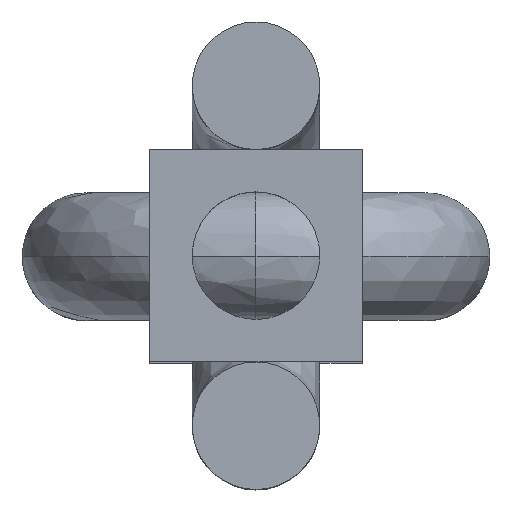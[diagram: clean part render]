
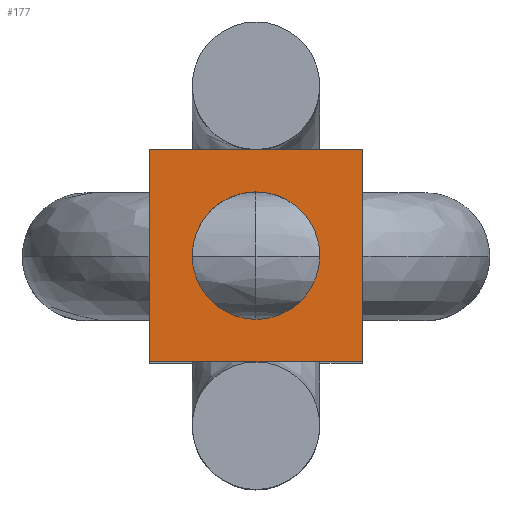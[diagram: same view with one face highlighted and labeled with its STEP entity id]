
A CAD part, top view. The second image highlights one B-rep face of the part: STEP entity #177.
In plain terms, the highlighted planar face has unit normal (0, 0, 1).
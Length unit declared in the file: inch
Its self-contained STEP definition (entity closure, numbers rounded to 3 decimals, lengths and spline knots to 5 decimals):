
#177=ADVANCED_FACE('',(#330,#331),#332,.F.);
#330=FACE_BOUND('',#1055,.T.);
#331=FACE_OUTER_BOUND('',#1056,.T.);
#332=PLANE('',#1057);
#1055=EDGE_LOOP('',(#1322,#1323,#1324,#1325));
#1056=EDGE_LOOP('',(#1326,#1327,#1328,#1329));
#1057=AXIS2_PLACEMENT_3D('',#1330,#1331,#1332);
#1322=ORIENTED_EDGE('',*,*,#1468,.T.);
#1323=ORIENTED_EDGE('',*,*,#1449,.T.);
#1324=ORIENTED_EDGE('',*,*,#1455,.T.);
#1325=ORIENTED_EDGE('',*,*,#1430,.T.);
#1326=ORIENTED_EDGE('',*,*,#1472,.F.);
#1327=ORIENTED_EDGE('',*,*,#1474,.F.);
#1328=ORIENTED_EDGE('',*,*,#1435,.F.);
#1329=ORIENTED_EDGE('',*,*,#1395,.F.);
#1330=CARTESIAN_POINT('',(0.31198,0.31198,2.55711));
#1331=DIRECTION('',(0.,0.,-1.0));
#1332=DIRECTION('',(1.0,0.0,0.));
#1395=EDGE_CURVE('',#1554,#1556,#1557,.T.);
#1430=EDGE_CURVE('',#1599,#1597,#1600,.T.);
#1435=EDGE_CURVE('',#1556,#1606,#1607,.T.);
#1449=EDGE_CURVE('',#1626,#1624,#1627,.T.);
#1455=EDGE_CURVE('',#1624,#1599,#1633,.T.);
#1468=EDGE_CURVE('',#1597,#1626,#1647,.T.);
#1472=EDGE_CURVE('',#1650,#1554,#1652,.T.);
#1474=EDGE_CURVE('',#1606,#1650,#1654,.T.);
#1554=VERTEX_POINT('',#1801);
#1556=VERTEX_POINT('',#1804);
#1557=LINE('',#1805,#1806);
#1597=VERTEX_POINT('',#1867);
#1599=VERTEX_POINT('',#1870);
#1600=B_SPLINE_CURVE_WITH_KNOTS('',3,(#1871,#1872,#1873,#1874),.UNSPECIFIED.,.F.,.F.,(4,4),(0.0,1.0),.UNSPECIFIED.);
#1606=VERTEX_POINT('',#1882);
#1607=LINE('',#1883,#1884);
#1624=VERTEX_POINT('',#1909);
#1626=VERTEX_POINT('',#1912);
#1627=B_SPLINE_CURVE_WITH_KNOTS('',3,(#1913,#1914,#1915,#1916),.UNSPECIFIED.,.F.,.F.,(4,4),(0.0,1.0),.UNSPECIFIED.);
#1633=B_SPLINE_CURVE_WITH_KNOTS('',3,(#1926,#1927,#1928,#1929),.UNSPECIFIED.,.F.,.F.,(4,4),(0.0,1.0),.UNSPECIFIED.);
#1647=B_SPLINE_CURVE_WITH_KNOTS('',3,(#1949,#1950,#1951,#1952),.UNSPECIFIED.,.F.,.F.,(4,4),(0.0,1.0),.UNSPECIFIED.);
#1650=VERTEX_POINT('',#1955);
#1652=LINE('',#1958,#1959);
#1654=LINE('',#1961,#1962);
#1801=CARTESIAN_POINT('',(0.00009,0.00009,2.55711));
#1804=CARTESIAN_POINT('',(0.00009,0.62387,2.55711));
#1805=CARTESIAN_POINT('',(0.00009,0.00009,2.55711));
#1806=VECTOR('',#2006,1.0);
#1867=CARTESIAN_POINT('',(0.49948,0.312,2.55711));
#1870=CARTESIAN_POINT('',(0.31198,0.49948,2.55711));
#1871=CARTESIAN_POINT('',(0.31198,0.49948,2.55711));
#1872=CARTESIAN_POINT('',(0.41554,0.49948,2.55711));
#1873=CARTESIAN_POINT('',(0.49948,0.41555,2.55711));
#1874=CARTESIAN_POINT('',(0.49948,0.312,2.55711));
#1882=CARTESIAN_POINT('',(0.62387,0.62387,2.55711));
#1883=CARTESIAN_POINT('',(0.00009,0.62387,2.55711));
#1884=VECTOR('',#2042,1.0);
#1909=CARTESIAN_POINT('',(0.12448,0.312,2.55711));
#1912=CARTESIAN_POINT('',(0.31198,0.1245,2.55711));
#1913=CARTESIAN_POINT('',(0.31198,0.1245,2.55711));
#1914=CARTESIAN_POINT('',(0.20843,0.1245,2.55711));
#1915=CARTESIAN_POINT('',(0.12448,0.20844,2.55711));
#1916=CARTESIAN_POINT('',(0.12448,0.312,2.55711));
#1926=CARTESIAN_POINT('',(0.12448,0.312,2.55711));
#1927=CARTESIAN_POINT('',(0.12448,0.41555,2.55711));
#1928=CARTESIAN_POINT('',(0.20843,0.49948,2.55711));
#1929=CARTESIAN_POINT('',(0.31198,0.49948,2.55711));
#1949=CARTESIAN_POINT('',(0.49948,0.312,2.55711));
#1950=CARTESIAN_POINT('',(0.49948,0.20844,2.55711));
#1951=CARTESIAN_POINT('',(0.41554,0.1245,2.55711));
#1952=CARTESIAN_POINT('',(0.31198,0.1245,2.55711));
#1955=CARTESIAN_POINT('',(0.62387,0.00009,2.55711));
#1958=CARTESIAN_POINT('',(0.62387,0.00009,2.55711));
#1959=VECTOR('',#2063,1.0);
#1961=CARTESIAN_POINT('',(0.62387,0.62387,2.55711));
#1962=VECTOR('',#2064,1.0);
#2006=DIRECTION('',(0.0,1.0,0.0));
#2042=DIRECTION('',(1.0,0.0,0.0));
#2063=DIRECTION('',(-1.0,0.0,0.0));
#2064=DIRECTION('',(0.0,-1.0,0.0));
